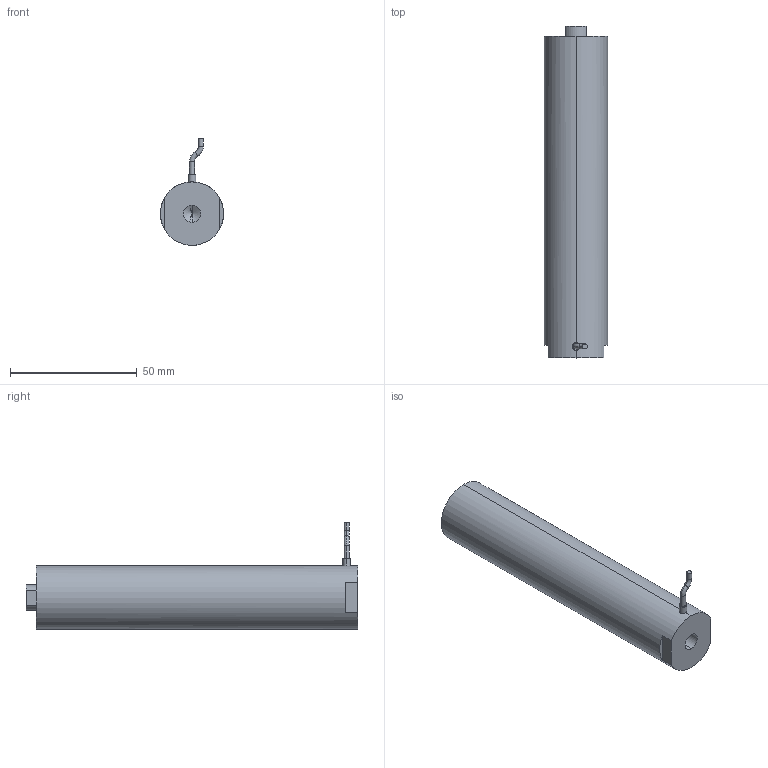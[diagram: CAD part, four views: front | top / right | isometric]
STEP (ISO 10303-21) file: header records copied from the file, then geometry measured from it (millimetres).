
FILE_DESCRIPTION (( 'STEP AP203' ), '1' );
FILE_NAME ('ﾄﾚﾂﾝﾎﾆﾊｽ120VS25.STEP', '2021-07-08T07:18:42', ( 'ﾎ｢ﾈ橆ﾃｻｧ' ), ( 'ﾎ｢ﾈ晥ｫﾋｾ' ), 'SwSTEP 2.0', 'SolidWorks 2016', '' );
FILE_SCHEMA (( 'CONFIG_CONTROL_DESIGN' ));
Length unit declared in the file: millimetre
Products named in the file (1): 囀蹟恇宒120VS25
Bounding box: 25 x 131 x 42.06 mm (x, y, z)
Volume: 61969.8 mm3; surface area: 11583 mm2
Topology: 1 solids, 1 shells, 948 faces, 2573 edges, 1708 vertices
Faces by surface type: bspline 517, plane 317, cylinder 106, torus 4, cone 4
Entity records: 44829 total; most frequent: CARTESIAN_POINT 25530, ORIENTED_EDGE 5130, EDGE_CURVE 2565, DIRECTION 2001, B_SPLINE_CURVE_WITH_KNOTS 1712, VERTEX_POINT 1706, EDGE_LOOP 1035, FACE_OUTER_BOUND 948
